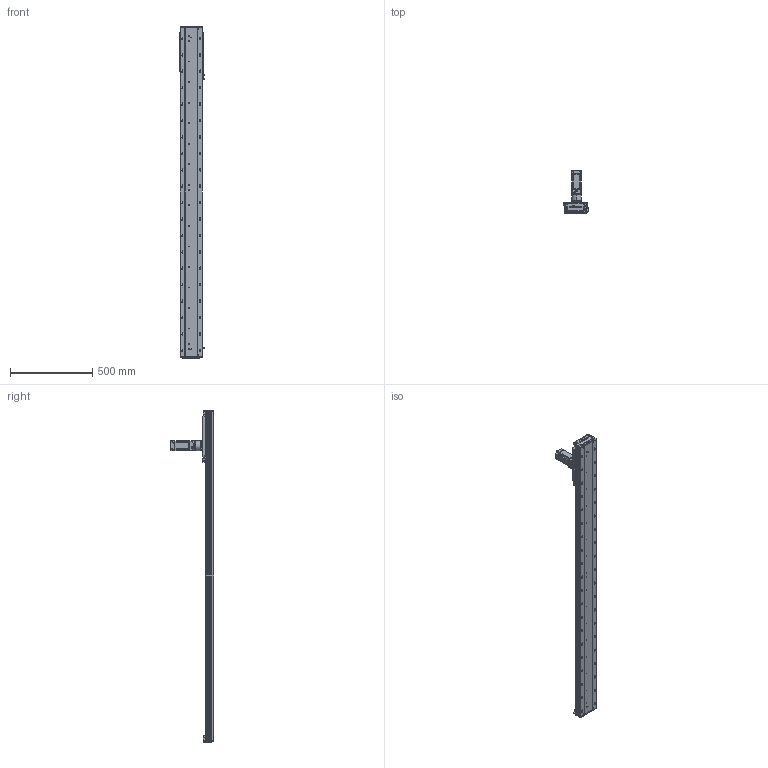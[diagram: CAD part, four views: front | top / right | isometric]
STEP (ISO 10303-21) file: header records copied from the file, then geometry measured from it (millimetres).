
FILE_DESCRIPTION (( 'STEP AP203' ), '1' );
FILE_NAME ('RY140-C-250-UK.SLDASM_1650.step', '2022-03-12T01:59:30', ( '' ), ( '' ), 'SwSTEP 2.0', 'SolidWorks 2016', '' );
FILE_SCHEMA (( 'CONFIG_CONTROL_DESIGN' ));
Length unit declared in the file: millimetre
Products named in the file (12): RY140-喘謫萇儂覃誹啣; RY140-絳寢EGH15-300-MK_1650; RY140-喘沭賑輸; RY140-300齿条模组型材底座_1650; 140蚥薯蝶輸; 60ZDF珨撰俋倛芞T1 200W M4; 絳寢賑輸EGH15; RY120外置感应片(140共用）; RY140-C-250-UK.SLDASM_1650; 15; 覜茼ん672; RY140-喘沭裔啣
Assembly tree (21 placements, depth 2):
  RY140-C-250-UK.SLDASM_1650
    RY140-300齿条模组型材底座_1650
    RY140-絳寢EGH15-300-MK_1650  x2
    絳寢賑輸EGH15  x6
    RY140-喘沭裔啣  x2
    覜茼ん672  x3
    RY140-喘沭賑輸
    RY120外置感应片(140共用）
    RY140-喘謫萇儂覃誹啣
    140蚥薯蝶輸  x2
    60ZDF珨撰俋倛芞T1 200W M4
    15
Bounding box: 153.7 x 263.5 x 2022 mm (x, y, z)
Volume: 6632793.6 mm3; surface area: 1793918 mm2
Topology: 21 solids, 21 shells, 3768 faces, 10094 edges, 6516 vertices
Faces by surface type: cylinder 1760, plane 1682, cone 280, bspline 46
Entity records: 86987 total; most frequent: CARTESIAN_POINT 19418, ORIENTED_EDGE 13794, DIRECTION 13759, EDGE_CURVE 6897, AXIS2_PLACEMENT_3D 4966, VERTEX_POINT 4517, VECTOR 3827, LINE 3827
